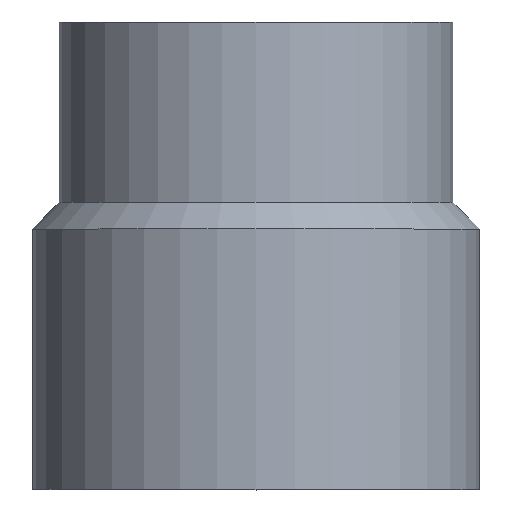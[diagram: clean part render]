
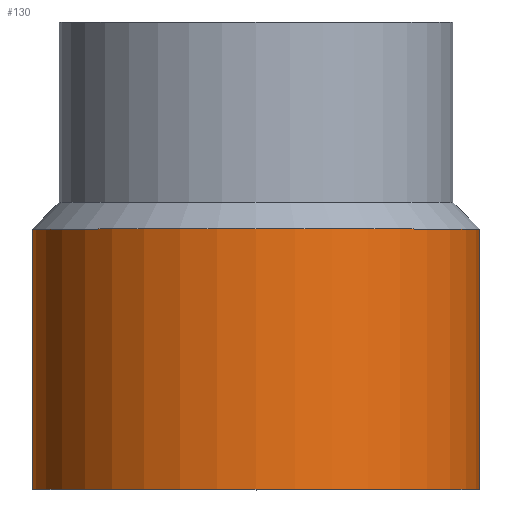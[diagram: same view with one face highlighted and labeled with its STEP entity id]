
A CAD part, top view. The second image highlights one B-rep face of the part: STEP entity #130.
In plain terms, the highlighted cylindrical face has radius 33.5 mm (diameter 67 mm), a full revolution.
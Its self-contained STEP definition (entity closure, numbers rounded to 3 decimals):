
#22=CYLINDRICAL_SURFACE('',#145,33.5);
#28=FACE_BOUND('',#52,.T.);
#39=FACE_OUTER_BOUND('',#51,.T.);
#51=EDGE_LOOP('',(#106));
#52=EDGE_LOOP('',(#107));
#71=CIRCLE('',#143,33.5);
#73=CIRCLE('',#146,33.5);
#82=VERTEX_POINT('',#218);
#84=VERTEX_POINT('',#223);
#93=EDGE_CURVE('',#82,#82,#71,.T.);
#95=EDGE_CURVE('',#84,#84,#73,.T.);
#106=ORIENTED_EDGE('',*,*,#95,.F.);
#107=ORIENTED_EDGE('',*,*,#93,.T.);
#130=ADVANCED_FACE('',(#39,#28),#22,.T.);
#143=AXIS2_PLACEMENT_3D('',#219,#170,#171);
#145=AXIS2_PLACEMENT_3D('',#222,#174,#175);
#146=AXIS2_PLACEMENT_3D('',#224,#176,#177);
#170=DIRECTION('center_axis',(0.,1.,0.));
#171=DIRECTION('ref_axis',(-1.,0.,0.));
#174=DIRECTION('center_axis',(0.,1.,0.));
#175=DIRECTION('ref_axis',(-1.,0.,0.));
#176=DIRECTION('center_axis',(0.,1.,0.));
#177=DIRECTION('ref_axis',(-1.,0.,0.));
#218=CARTESIAN_POINT('',(-33.5,0.,0.));
#219=CARTESIAN_POINT('Origin',(0.,0.,0.));
#222=CARTESIAN_POINT('Origin',(0.,19.5,0.));
#223=CARTESIAN_POINT('',(-33.5,39.,0.));
#224=CARTESIAN_POINT('Origin',(0.,39.,0.));
